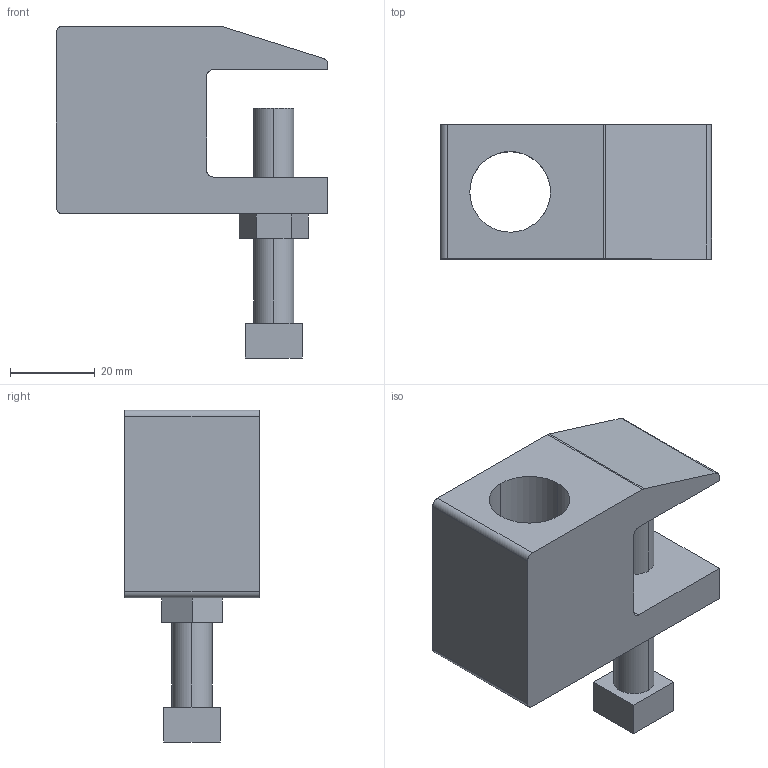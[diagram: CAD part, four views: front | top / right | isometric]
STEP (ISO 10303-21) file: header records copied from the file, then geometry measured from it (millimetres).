
FILE_DESCRIPTION(('TurboCAD Mac Pro'),'Build 980');
FILE_NAME('P2898-75.stp',' ',(''),(''),'ACIS Interop','IMSI','TurboCAD Mac Pro BY IMSI, INCORPORATED');
FILE_SCHEMA(('automotive_design'));
Length unit declared in the file: inch
Products named in the file (3): 1; 2; 3
Bounding box: 64.12 x 31.75 x 78.5 mm (x, y, z)
Volume: 57042.7 mm3; surface area: 17605.2 mm2
Topology: 3 solids, 3 shells, 44 faces, 111 edges, 74 vertices
Faces by surface type: plane 26, bspline 17, cylinder 1
Entity records: 1829 total; most frequent: CARTESIAN_POINT 453, ORIENTED_EDGE 222, DIRECTION 139, EDGE_CURVE 111, LINE 75, VECTOR 75, VERTEX_POINT 74, EDGE_LOOP 49
